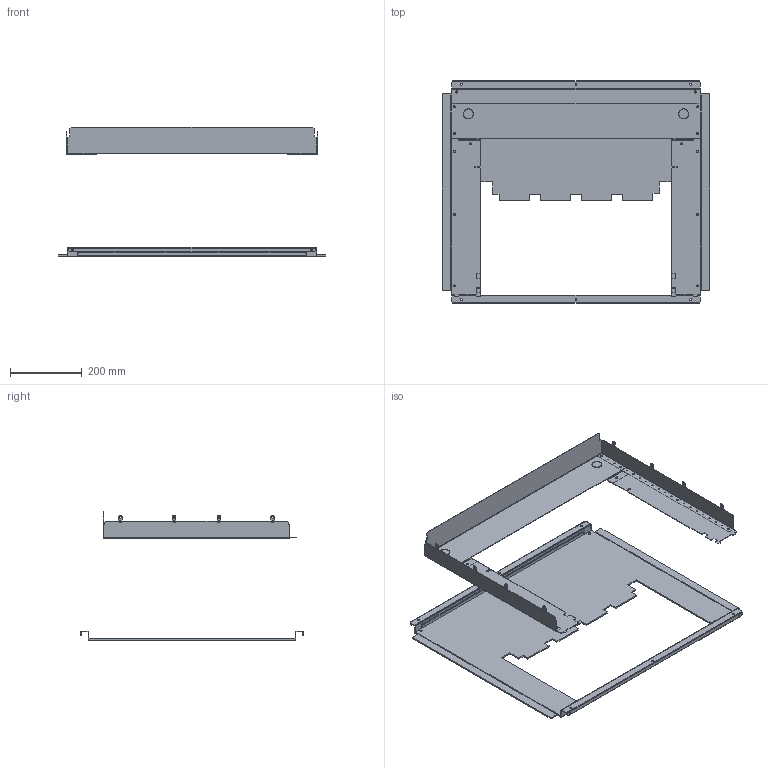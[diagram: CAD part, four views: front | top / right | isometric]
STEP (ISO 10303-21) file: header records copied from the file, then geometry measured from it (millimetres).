
FILE_DESCRIPTION(('CAx-IF Rec.Pracs.---Model Styling and Organization---1.2---2011-12-15','CAx-IF Rec.Pracs.---Geometric and Assembly Validation Properties---4.1---2014-06-16','CAx-IF Rec.Pracs.---PMI Polyline Presentation---2.0---2013-05-24'),'2;1');
FILE_NAME('R5FRC7V815254P.stp','2021-07-29T02:07:16+03:00',(''),(''),'STEP Interface 4.4 by CT CoreTechnologie','3D_Evolution4.4 by CT CoreTechnologie','');
FILE_SCHEMA(('AUTOMOTIVE_DESIGN { 1 0 10303 214 1 1 1 1 }'));
Length unit declared in the file: millimetre
Products named in the file (1): R5FRC6V815254P
Bounding box: 745 x 621 x 362 mm (x, y, z)
Surface area: 1261949.5 mm2 (no closed solid volume)
Topology: 0 solids, 10 shells, 646 faces, 1830 edges, 1204 vertices
Faces by surface type: plane 408, cylinder 238
Entity records: 21398 total; most frequent: CARTESIAN_POINT 3681, ORIENTED_EDGE 3660, DIRECTION 3600, EDGE_CURVE 1830, VECTOR 1354, LINE 1354, VERTEX_POINT 1204, AXIS2_PLACEMENT_3D 1123
